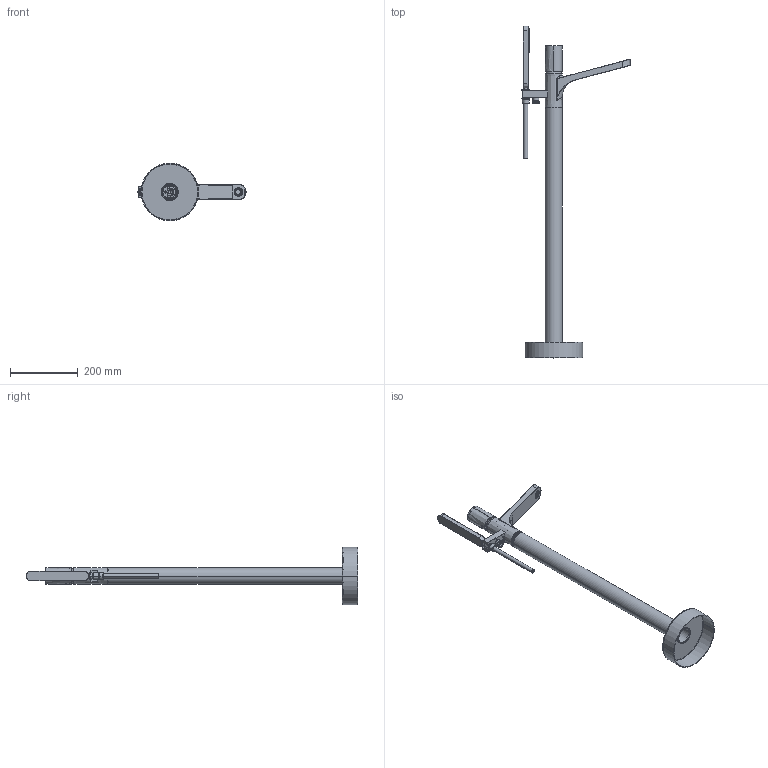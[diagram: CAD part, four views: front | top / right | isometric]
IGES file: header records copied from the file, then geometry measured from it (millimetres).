
Start section:  PTC IGES file: F4164_4_file_3d.igs
Global section: file name: F4164_4_file_3d.igs; native system: Creo Parametric by PTC Inc.; preprocessor: 2016260; author: ivanv; organization: Unknown; date: 20181106.165604; units: millimetre
Bounding box: 319.68 x 981.5 x 170 mm (x, y, z)
Volume: 608998.3 mm3; surface area: 468649.8 mm2
Topology: 4 solids, 4 shells, 789 faces, 1833 edges, 1130 vertices
Faces by surface type: revolution 492, bspline 297
